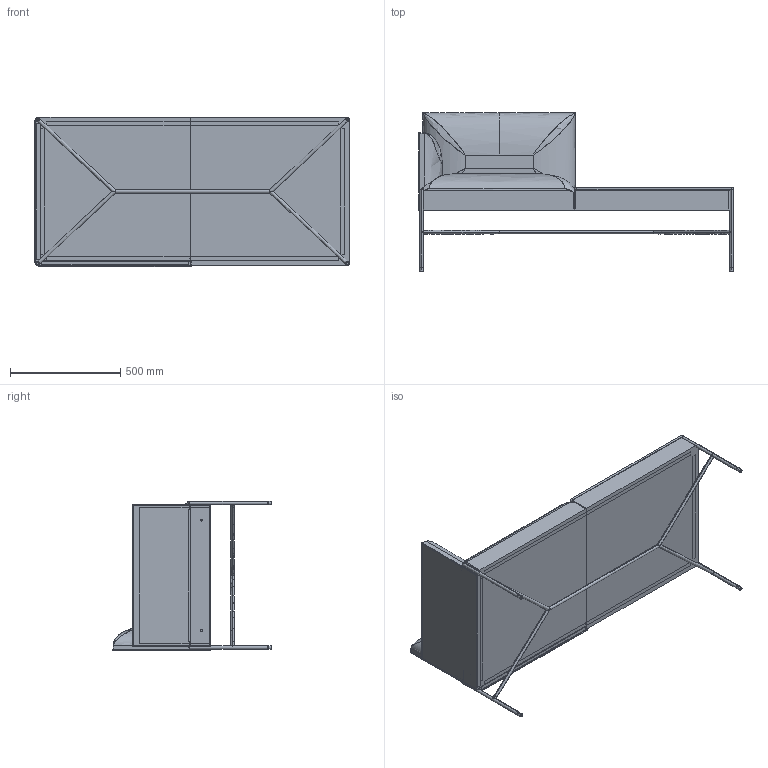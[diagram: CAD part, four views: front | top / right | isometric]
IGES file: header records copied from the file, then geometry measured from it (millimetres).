
Start section: SolidWorks IGES file using analytic representation for surfaces
Global section: file name: W:\design\GORDON GUILLAUMIER\Chill-Out\modelli 3d aggiornati\divano O.IGS; native system: SolidWorks 2010; preprocessor: SolidWorks 2010; author: PC20; date: 140714.192604; units: millimetre
Bounding box: 1425 x 719.5 x 675.5 mm (x, y, z)
Surface area: 9563883.2 mm2 (no closed solid volume)
Topology: 0 solids, 0 shells, 675 faces, 16673 edges, 19807 vertices
Faces by surface type: bspline 390, revolution 285
